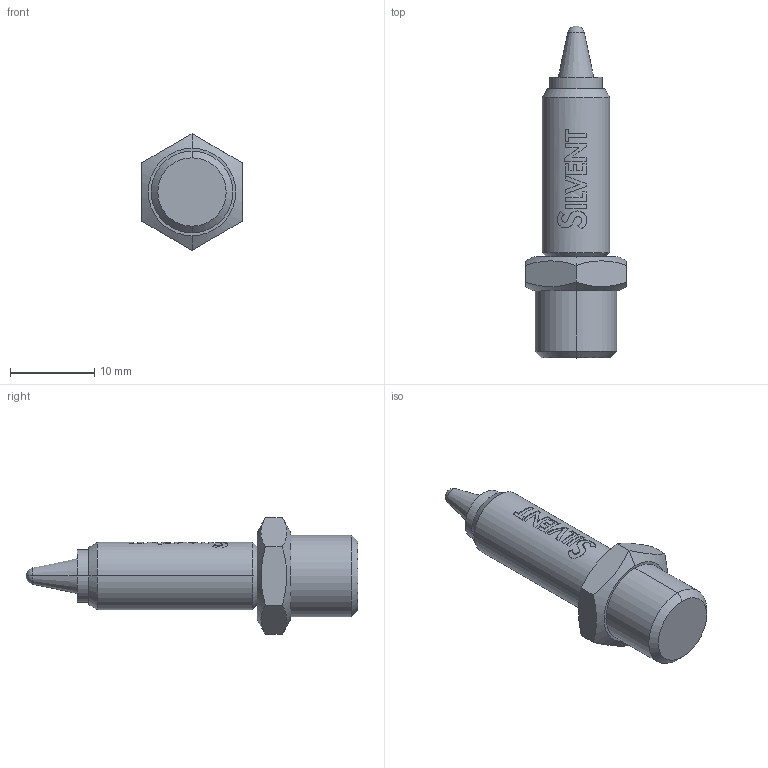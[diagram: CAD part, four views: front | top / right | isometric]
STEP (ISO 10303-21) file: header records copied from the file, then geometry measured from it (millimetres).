
FILE_DESCRIPTION (( 'STEP AP203' ), '1' );
FILE_NAME ('Silvent 011.STEP', '2003-09-23T09:27:11', ( 'Ulf Persson' ), ( '' ), 'SwSTEP 2.0', 'SolidWorks 2003099', '' );
FILE_SCHEMA (( 'CONFIG_CONTROL_DESIGN' ));
Length unit declared in the file: millimetre
Products named in the file (1): Silvent 011
Bounding box: 12 x 39.47 x 13.86 mm (x, y, z)
Volume: 2136 mm3; surface area: 1188.6 mm2
Topology: 1 solids, 1 shells, 161 faces, 433 edges, 285 vertices
Faces by surface type: cylinder 88, plane 59, cone 12, sphere 2
Entity records: 5560 total; most frequent: CARTESIAN_POINT 1862, ORIENTED_EDGE 866, DIRECTION 597, EDGE_CURVE 433, VERTEX_POINT 285, AXIS2_PLACEMENT_3D 212, LINE 173, VECTOR 173
